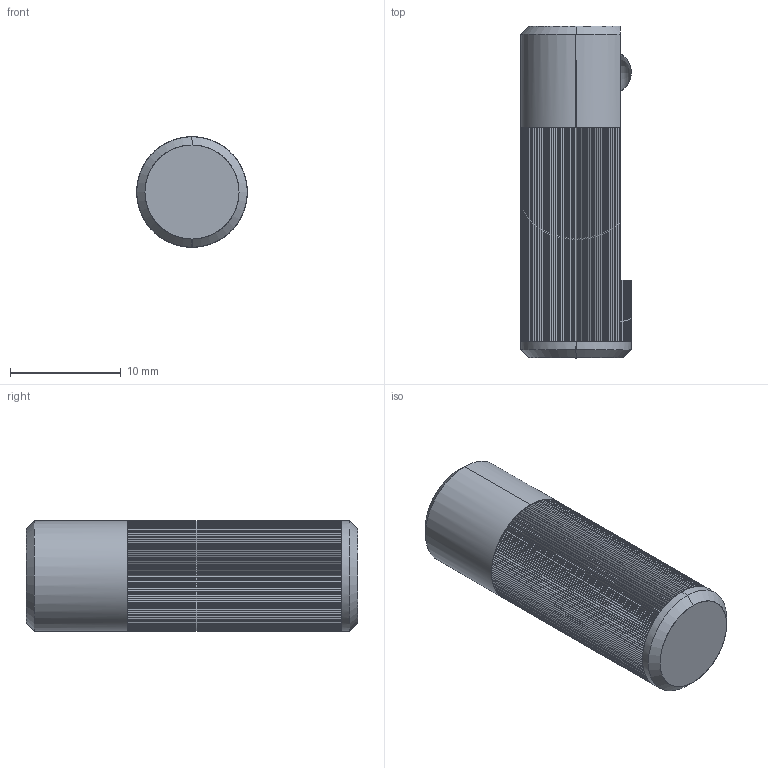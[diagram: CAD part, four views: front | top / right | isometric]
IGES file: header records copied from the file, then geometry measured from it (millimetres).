
Start section: SolidWorks IGES file using analytic representation for surfaces
Global section: file name: C:\Documents and Settings\IANO\Desktop\Temp File\Process pending\NEW\32800_v2\32800_v2_20170703_IGES\32800.W0110.igs; native system: SolidWorks 2009; preprocessor: SolidWorks 2009; author: IANO; date: 170630.124948; units: millimetre
Bounding box: 10 x 30 x 10 mm (x, y, z)
Surface area: 1722.4 mm2 (no closed solid volume)
Topology: 0 solids, 0 shells, 587 faces, 2779 edges, 2776 vertices
Faces by surface type: bspline 563, revolution 24
